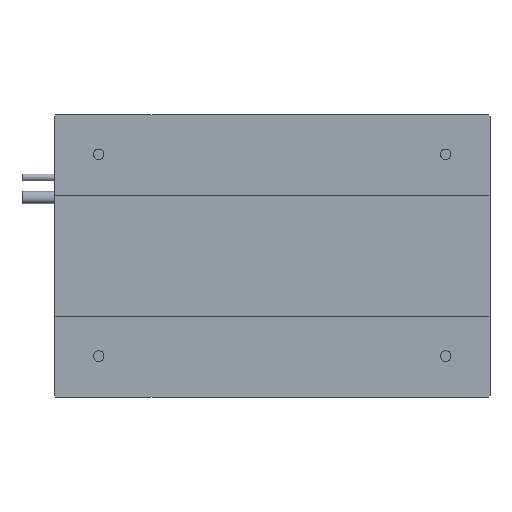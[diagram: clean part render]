
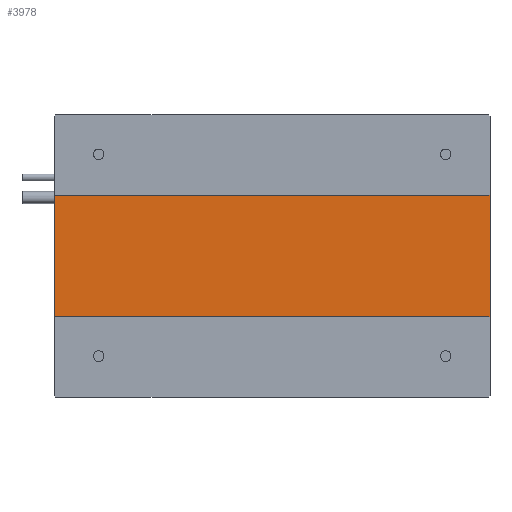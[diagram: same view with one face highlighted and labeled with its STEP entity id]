
A CAD part, front view. The second image highlights one B-rep face of the part: STEP entity #3978.
In plain terms, the highlighted planar face has unit normal (0, -1, 0).
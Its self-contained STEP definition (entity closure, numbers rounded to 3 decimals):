
#396 = CARTESIAN_POINT ( 'NONE',  ( 0., 1., -37.5 ) ) ;
#411 = DIRECTION ( 'NONE',  ( 0., 0., -1. ) ) ;
#522 = ORIENTED_EDGE ( 'NONE', *, *, #1009, .T. ) ;
#775 = EDGE_CURVE ( 'NONE', #5712, #4302, #5252, .T. ) ;
#876 = EDGE_CURVE ( 'NONE', #1762, #3712, #3604, .T. ) ;
#990 = EDGE_CURVE ( 'NONE', #4302, #1762, #4075, .T. ) ;
#1009 = EDGE_CURVE ( 'NONE', #3712, #5712, #6036, .T. ) ;
#1443 = CARTESIAN_POINT ( 'NONE',  ( 270., 1., 37.5 ) ) ;
#1703 = CARTESIAN_POINT ( 'NONE',  ( 0., 1., 37.5 ) ) ;
#1762 = VERTEX_POINT ( 'NONE', #4381 ) ;
#2269 = DIRECTION ( 'NONE',  ( -1., 0., 0. ) ) ;
#2834 = VECTOR ( 'NONE', #2269, 1000. ) ;
#2951 = FACE_OUTER_BOUND ( 'NONE', #6068, .T. ) ;
#3193 = VECTOR ( 'NONE', #3571, 1000. ) ;
#3400 = CARTESIAN_POINT ( 'NONE',  ( 270., 1., -37.5 ) ) ;
#3571 = DIRECTION ( 'NONE',  ( 0., 0., 1. ) ) ;
#3604 = LINE ( 'NONE', #396, #5580 ) ;
#3628 = CARTESIAN_POINT ( 'NONE',  ( 0., 1., -37.5 ) ) ;
#3712 = VERTEX_POINT ( 'NONE', #3628 ) ;
#3784 = AXIS2_PLACEMENT_3D ( 'NONE', #5500, #5299, #5578 ) ;
#3978 = ADVANCED_FACE ( 'NONE', ( #2951 ), #5566, .F. ) ;
#3982 = ORIENTED_EDGE ( 'NONE', *, *, #990, .T. ) ;
#4075 = LINE ( 'NONE', #1703, #2834 ) ;
#4302 = VERTEX_POINT ( 'NONE', #1443 ) ;
#4381 = CARTESIAN_POINT ( 'NONE',  ( 0., 1., 37.5 ) ) ;
#4958 = VECTOR ( 'NONE', #4980, 1000. ) ;
#4980 = DIRECTION ( 'NONE',  ( 1., 0., 0. ) ) ;
#4996 = CARTESIAN_POINT ( 'NONE',  ( 0., 1., -37.5 ) ) ;
#5252 = LINE ( 'NONE', #3400, #3193 ) ;
#5299 = DIRECTION ( 'NONE',  ( 0., 1., 0. ) ) ;
#5500 = CARTESIAN_POINT ( 'NONE',  ( 0., 1., 37.5 ) ) ;
#5566 = PLANE ( 'NONE',  #3784 ) ;
#5578 = DIRECTION ( 'NONE',  ( 0., 0., 1. ) ) ;
#5580 = VECTOR ( 'NONE', #411, 1000. ) ;
#5590 = CARTESIAN_POINT ( 'NONE',  ( 270., 1., -37.5 ) ) ;
#5705 = ORIENTED_EDGE ( 'NONE', *, *, #876, .T. ) ;
#5712 = VERTEX_POINT ( 'NONE', #5590 ) ;
#5836 = ORIENTED_EDGE ( 'NONE', *, *, #775, .T. ) ;
#6036 = LINE ( 'NONE', #4996, #4958 ) ;
#6068 = EDGE_LOOP ( 'NONE', ( #5705, #522, #5836, #3982 ) ) ;
